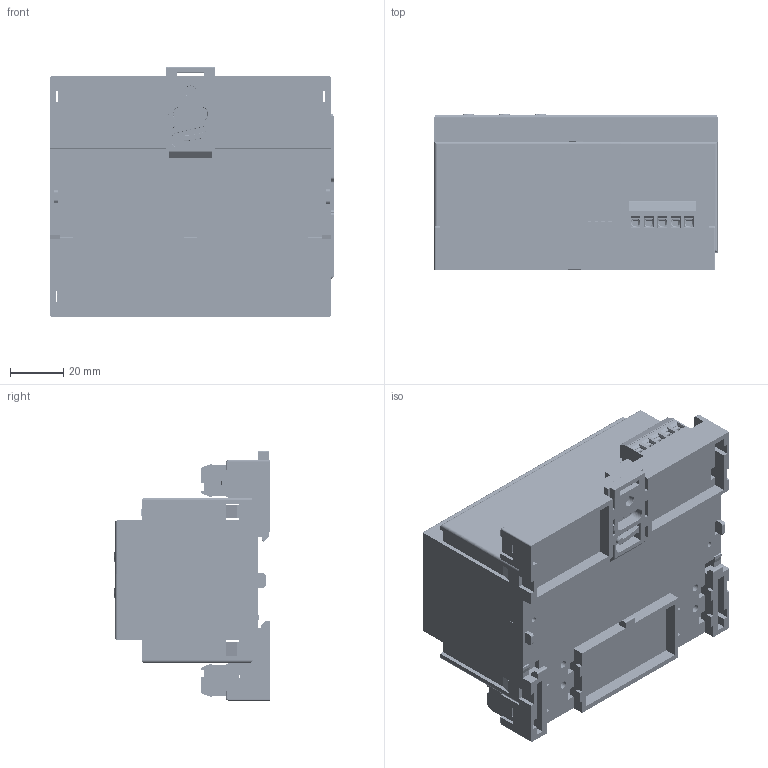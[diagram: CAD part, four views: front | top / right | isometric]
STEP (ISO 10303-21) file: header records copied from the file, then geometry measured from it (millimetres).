
FILE_DESCRIPTION (( 'STEP AP214' ), '1' );
FILE_NAME ('1188 1900_3D.STEP', '2014-09-26T07:11:06', ( '' ), ( '' ), 'SwSTEP 2.0', 'SolidWorks 2014', '' );
FILE_SCHEMA (( 'AUTOMOTIVE_DESIGN' ));
Length unit declared in the file: millimetre
Products named in the file (13): 31137104; Potiknopf_3D f黵 Modelle; 31137105; 31137103; 1188 1200_3D; V-Riegel_3D; V6_Oberteil; 1188 1900_Leiterplatte; V6_Frontplatte; V6_Unterteil; 1188 1900_3D
Assembly tree (17 placements, depth 2):
  1188 1900_3D
    V6_Unterteil
    V6_Frontplatte
    1188 1900_Leiterplatte
    V6_Oberteil
    V-Riegel_3D
    1188 1200_3D
    31137103
    31137104  x2
    31137105
    Potiknopf_3D f黵 Modelle  x5
    31137104
    31137104
Bounding box: 106 x 58.4 x 93.34 mm (x, y, z)
Volume: 95784.5 mm3; surface area: 118119.8 mm2
Topology: 16 solids, 395 shells, 6949 faces, 18114 edges, 11936 vertices
Faces by surface type: plane 5111, cylinder 802, bspline 763, cone 194, torus 65, sphere 14
Full cylindrical faces by diameter (mm): 0.357 x5, 1.5 x28, 1.8 x4, 2 x26, 2.25 x24, 2.4 x24, 2.6 x4, 2.7 x24, 2.8 x1, 3 x58, 3.5 x9, 3.9 x24, 4 x5, 4.2 x1, 4.5 x2
Entity records: 218811 total; most frequent: CARTESIAN_POINT 61073, ORIENTED_EDGE 32158, DIRECTION 27507, EDGE_CURVE 16081, LINE 12347, VECTOR 12347, VERTEX_POINT 10780, AXIS2_PLACEMENT_3D 7580
